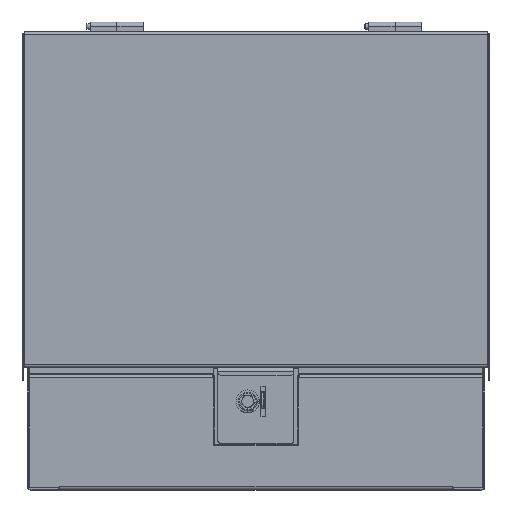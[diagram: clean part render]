
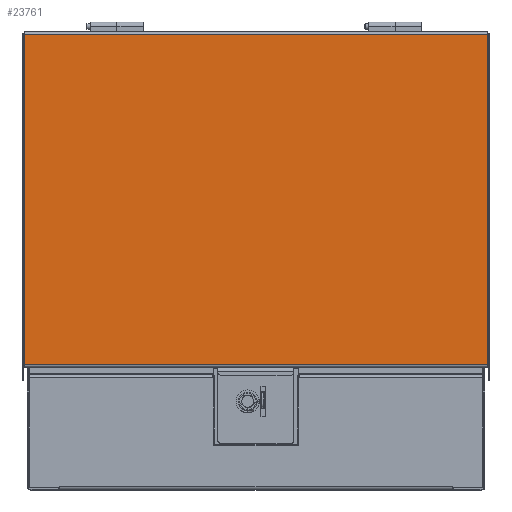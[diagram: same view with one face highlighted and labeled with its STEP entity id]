
A CAD part, top view. The second image highlights one B-rep face of the part: STEP entity #23761.
In plain terms, the highlighted planar face has unit normal (0, 0, 1) as drawn and (0, 0, -1) by its records, which use the part's own axes.
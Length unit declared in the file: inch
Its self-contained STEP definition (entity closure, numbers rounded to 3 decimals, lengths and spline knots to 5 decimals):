
#16951 = CARTESIAN_POINT ( 'NONE',  ( 15.181, 10.7745, 0. ) ) ;
#16952 = DIRECTION ( 'NONE',  ( 0., 1., 0. ) ) ;
#16953 = VECTOR ( 'NONE', #16952, 39.37008 ) ;
#16954 = CARTESIAN_POINT ( 'NONE',  ( 15.181, 10.9515, 0. ) ) ;
#16955 = LINE ( 'NONE', #16954, #16953 ) ;
#16956 = CARTESIAN_POINT ( 'NONE',  ( 15.181, -10.8715, 0. ) ) ;
#16970 = DIRECTION ( 'NONE',  ( 0., -1., 0. ) ) ;
#16971 = VECTOR ( 'NONE', #16970, 39.37008 ) ;
#16972 = CARTESIAN_POINT ( 'NONE',  ( -15.181, 10.9515, 0. ) ) ;
#16973 = LINE ( 'NONE', #16972, #16971 ) ;
#16975 = CARTESIAN_POINT ( 'NONE',  ( -15.181, 10.7745, 0. ) ) ;
#16990 = DIRECTION ( 'NONE',  ( 1., 0., 0. ) ) ;
#16992 = VECTOR ( 'NONE', #16990, 39.37008 ) ;
#16993 = CARTESIAN_POINT ( 'NONE',  ( -15.181, 10.7745, 0. ) ) ;
#16994 = LINE ( 'NONE', #16993, #16992 ) ;
#16995 = DIRECTION ( 'NONE',  ( -1., 0., 0. ) ) ;
#16996 = VECTOR ( 'NONE', #16995, 39.37008 ) ;
#16997 = CARTESIAN_POINT ( 'NONE',  ( 15.181, -10.8715, 0. ) ) ;
#16998 = LINE ( 'NONE', #16997, #16996 ) ;
#16999 = DIRECTION ( 'NONE',  ( 1., 0., 0. ) ) ;
#17000 = DIRECTION ( 'NONE',  ( 0., 0., 1. ) ) ;
#17001 = CARTESIAN_POINT ( 'NONE',  ( -15.181, -10.9515, 0. ) ) ;
#17002 = AXIS2_PLACEMENT_3D ( 'NONE', #17001, #17000, #16999 ) ;
#17003 = PLANE ( 'NONE',  #17002 ) ;
#17004 = FACE_OUTER_BOUND ( 'NONE', #23762, .T. ) ;
#17214 = CARTESIAN_POINT ( 'NONE',  ( -15.181, -10.8715, 0. ) ) ;
#23725 = VERTEX_POINT ( 'NONE', #17214 ) ;
#23761 = ADVANCED_FACE ( 'Face18', ( #17004 ), #17003, .F. ) ;
#23762 = EDGE_LOOP ( 'NONE', ( #23763, #23765, #23766, #23768 ) ) ;
#23763 = ORIENTED_EDGE ( 'NONE', *, *, #23764, .T. ) ;
#23764 = EDGE_CURVE ( 'NONE', #23829, #23725, #16998, .T. ) ;
#23765 = ORIENTED_EDGE ( 'NONE', *, *, #23823, .F. ) ;
#23766 = ORIENTED_EDGE ( 'NONE', *, *, #23767, .T. ) ;
#23767 = EDGE_CURVE ( 'NONE', #23821, #23832, #16994, .T. ) ;
#23768 = ORIENTED_EDGE ( 'NONE', *, *, #23831, .F. ) ;
#23821 = VERTEX_POINT ( 'NONE', #16975 ) ;
#23823 = EDGE_CURVE ( 'NONE', #23821, #23725, #16973, .T. ) ;
#23829 = VERTEX_POINT ( 'NONE', #16956 ) ;
#23831 = EDGE_CURVE ( 'NONE', #23829, #23832, #16955, .T. ) ;
#23832 = VERTEX_POINT ( 'NONE', #16951 ) ;
